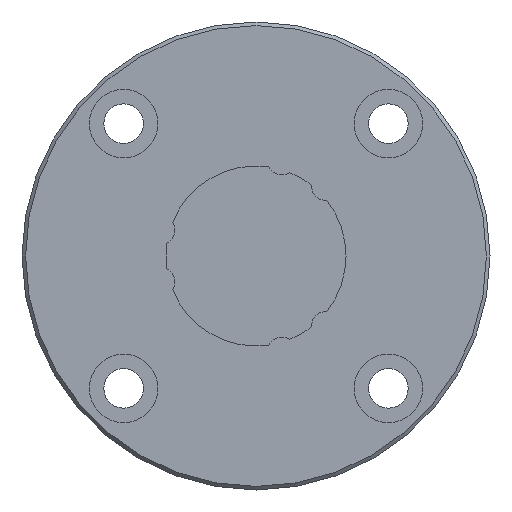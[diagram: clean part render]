
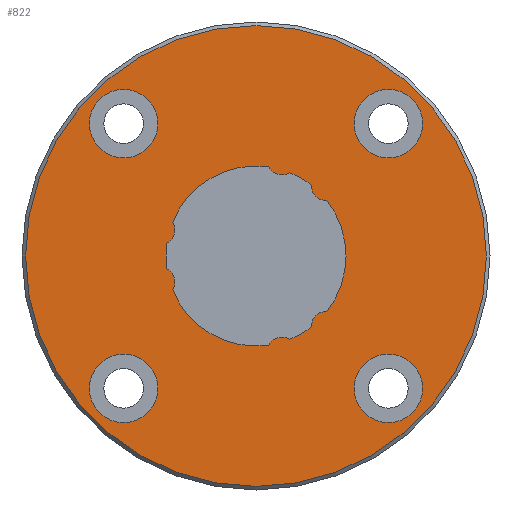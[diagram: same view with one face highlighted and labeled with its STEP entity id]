
A CAD part, left-side view. The second image highlights one B-rep face of the part: STEP entity #822.
In plain terms, the highlighted planar face has unit normal (-1, 0, 0).
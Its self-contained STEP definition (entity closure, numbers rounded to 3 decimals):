
#44=PLANE('',#927);
#175=ORIENTED_EDGE('',*,*,#351,.F.);
#176=ORIENTED_EDGE('',*,*,#352,.F.);
#177=ORIENTED_EDGE('',*,*,#353,.F.);
#178=ORIENTED_EDGE('',*,*,#354,.F.);
#179=ORIENTED_EDGE('',*,*,#355,.F.);
#180=ORIENTED_EDGE('',*,*,#356,.T.);
#181=ORIENTED_EDGE('',*,*,#357,.F.);
#182=ORIENTED_EDGE('',*,*,#358,.T.);
#183=ORIENTED_EDGE('',*,*,#359,.F.);
#184=ORIENTED_EDGE('',*,*,#360,.T.);
#185=ORIENTED_EDGE('',*,*,#361,.F.);
#186=ORIENTED_EDGE('',*,*,#362,.T.);
#187=ORIENTED_EDGE('',*,*,#363,.F.);
#188=ORIENTED_EDGE('',*,*,#364,.T.);
#189=ORIENTED_EDGE('',*,*,#365,.F.);
#190=ORIENTED_EDGE('',*,*,#366,.T.);
#191=ORIENTED_EDGE('',*,*,#367,.F.);
#351=EDGE_CURVE('',#445,#445,#523,.T.);
#352=EDGE_CURVE('',#446,#446,#524,.F.);
#353=EDGE_CURVE('',#447,#447,#525,.F.);
#354=EDGE_CURVE('',#448,#448,#526,.F.);
#355=EDGE_CURVE('',#449,#449,#527,.F.);
#356=EDGE_CURVE('',#450,#451,#528,.T.);
#357=EDGE_CURVE('',#452,#451,#529,.T.);
#358=EDGE_CURVE('',#452,#453,#530,.T.);
#359=EDGE_CURVE('',#454,#453,#531,.T.);
#360=EDGE_CURVE('',#454,#455,#532,.T.);
#361=EDGE_CURVE('',#456,#455,#533,.T.);
#362=EDGE_CURVE('',#456,#457,#534,.T.);
#363=EDGE_CURVE('',#458,#457,#535,.T.);
#364=EDGE_CURVE('',#458,#459,#536,.T.);
#365=EDGE_CURVE('',#460,#459,#537,.T.);
#366=EDGE_CURVE('',#460,#461,#538,.T.);
#367=EDGE_CURVE('',#450,#461,#539,.T.);
#445=VERTEX_POINT('',#1437);
#446=VERTEX_POINT('',#1439);
#447=VERTEX_POINT('',#1441);
#448=VERTEX_POINT('',#1443);
#449=VERTEX_POINT('',#1445);
#450=VERTEX_POINT('',#1447);
#451=VERTEX_POINT('',#1448);
#452=VERTEX_POINT('',#1450);
#453=VERTEX_POINT('',#1452);
#454=VERTEX_POINT('',#1454);
#455=VERTEX_POINT('',#1456);
#456=VERTEX_POINT('',#1458);
#457=VERTEX_POINT('',#1460);
#458=VERTEX_POINT('',#1462);
#459=VERTEX_POINT('',#1464);
#460=VERTEX_POINT('',#1466);
#461=VERTEX_POINT('',#1468);
#523=CIRCLE('',#928,32.);
#524=CIRCLE('',#929,4.75);
#525=CIRCLE('',#930,4.75);
#526=CIRCLE('',#931,4.75);
#527=CIRCLE('',#932,4.75);
#528=CIRCLE('',#933,12.5);
#529=CIRCLE('',#934,2.06);
#530=CIRCLE('',#935,12.5);
#531=CIRCLE('',#936,2.06);
#532=CIRCLE('',#937,12.5);
#533=CIRCLE('',#938,2.06);
#534=CIRCLE('',#939,12.5);
#535=CIRCLE('',#940,2.06);
#536=CIRCLE('',#941,12.5);
#537=CIRCLE('',#942,2.06);
#538=CIRCLE('',#943,12.5);
#539=CIRCLE('',#944,2.06);
#593=EDGE_LOOP('',(#175));
#594=EDGE_LOOP('',(#176));
#595=EDGE_LOOP('',(#177));
#596=EDGE_LOOP('',(#178));
#597=EDGE_LOOP('',(#179));
#598=EDGE_LOOP('',(#180,#181,#182,#183,#184,#185,#186,#187,#188,#189,#190,
#191));
#689=FACE_BOUND('',#593,.T.);
#690=FACE_BOUND('',#594,.T.);
#691=FACE_BOUND('',#595,.T.);
#692=FACE_BOUND('',#596,.T.);
#693=FACE_BOUND('',#597,.T.);
#694=FACE_BOUND('',#598,.T.);
#822=ADVANCED_FACE('',(#689,#690,#691,#692,#693,#694),#44,.F.);
#927=AXIS2_PLACEMENT_3D('',#1435,#1114,#1115);
#928=AXIS2_PLACEMENT_3D('',#1436,#1116,#1117);
#929=AXIS2_PLACEMENT_3D('',#1438,#1118,#1119);
#930=AXIS2_PLACEMENT_3D('',#1440,#1120,#1121);
#931=AXIS2_PLACEMENT_3D('',#1442,#1122,#1123);
#932=AXIS2_PLACEMENT_3D('',#1444,#1124,#1125);
#933=AXIS2_PLACEMENT_3D('',#1446,#1126,#1127);
#934=AXIS2_PLACEMENT_3D('',#1449,#1128,#1129);
#935=AXIS2_PLACEMENT_3D('',#1451,#1130,#1131);
#936=AXIS2_PLACEMENT_3D('',#1453,#1132,#1133);
#937=AXIS2_PLACEMENT_3D('',#1455,#1134,#1135);
#938=AXIS2_PLACEMENT_3D('',#1457,#1136,#1137);
#939=AXIS2_PLACEMENT_3D('',#1459,#1138,#1139);
#940=AXIS2_PLACEMENT_3D('',#1461,#1140,#1141);
#941=AXIS2_PLACEMENT_3D('',#1463,#1142,#1143);
#942=AXIS2_PLACEMENT_3D('',#1465,#1144,#1145);
#943=AXIS2_PLACEMENT_3D('',#1467,#1146,#1147);
#944=AXIS2_PLACEMENT_3D('',#1469,#1148,#1149);
#1114=DIRECTION('',(1.,0.,0.));
#1115=DIRECTION('',(0.,0.,-1.));
#1116=DIRECTION('',(1.,0.,0.));
#1117=DIRECTION('',(0.,0.,-1.));
#1118=DIRECTION('',(1.,0.,0.));
#1119=DIRECTION('',(0.,0.,-1.));
#1120=DIRECTION('',(1.,0.,0.));
#1121=DIRECTION('',(0.,0.,-1.));
#1122=DIRECTION('',(1.,0.,0.));
#1123=DIRECTION('',(0.,0.,-1.));
#1124=DIRECTION('',(1.,0.,0.));
#1125=DIRECTION('',(0.,0.,-1.));
#1126=DIRECTION('',(1.,0.,0.));
#1127=DIRECTION('',(0.,0.,-1.));
#1128=DIRECTION('',(1.,0.,0.));
#1129=DIRECTION('',(0.,0.,-1.));
#1130=DIRECTION('',(1.,0.,0.));
#1131=DIRECTION('',(0.,0.,-1.));
#1132=DIRECTION('',(1.,0.,0.));
#1133=DIRECTION('',(0.,0.,-1.));
#1134=DIRECTION('',(1.,0.,0.));
#1135=DIRECTION('',(0.,0.,-1.));
#1136=DIRECTION('',(1.,0.,0.));
#1137=DIRECTION('',(0.,0.,-1.));
#1138=DIRECTION('',(1.,0.,0.));
#1139=DIRECTION('',(0.,0.,-1.));
#1140=DIRECTION('',(1.,0.,0.));
#1141=DIRECTION('',(0.,0.,-1.));
#1142=DIRECTION('',(1.,0.,0.));
#1143=DIRECTION('',(0.,0.,-1.));
#1144=DIRECTION('',(1.,0.,0.));
#1145=DIRECTION('',(0.,0.,-1.));
#1146=DIRECTION('',(1.,0.,0.));
#1147=DIRECTION('',(0.,0.,-1.));
#1148=DIRECTION('',(1.,0.,0.));
#1149=DIRECTION('',(0.,0.,-1.));
#1435=CARTESIAN_POINT('',(0.,0.,0.));
#1436=CARTESIAN_POINT('',(0.,0.,0.));
#1437=CARTESIAN_POINT('',(0.,0.,-32.));
#1438=CARTESIAN_POINT('',(0.,-18.385,18.385));
#1439=CARTESIAN_POINT('',(0.,-18.385,13.635));
#1440=CARTESIAN_POINT('',(0.,-18.385,-18.385));
#1441=CARTESIAN_POINT('',(0.,-18.385,-23.135));
#1442=CARTESIAN_POINT('',(0.,18.385,-18.385));
#1443=CARTESIAN_POINT('',(0.,18.385,-23.135));
#1444=CARTESIAN_POINT('',(0.,18.385,18.385));
#1445=CARTESIAN_POINT('',(0.,18.385,13.635));
#1446=CARTESIAN_POINT('',(0.,0.,0.));
#1447=CARTESIAN_POINT('',(0.,12.378,-1.745));
#1448=CARTESIAN_POINT('',(0.,12.378,1.745));
#1449=CARTESIAN_POINT('',(0.,13.33,3.572));
#1450=CARTESIAN_POINT('',(0.,11.592,4.678));
#1451=CARTESIAN_POINT('',(0.,0.,0.));
#1452=CARTESIAN_POINT('',(0.,-1.745,12.378));
#1453=CARTESIAN_POINT('',(0.,-3.572,13.33));
#1454=CARTESIAN_POINT('',(0.,-4.678,11.592));
#1455=CARTESIAN_POINT('',(0.,0.,0.));
#1456=CARTESIAN_POINT('',(0.,-7.7,9.847));
#1457=CARTESIAN_POINT('',(0.,-9.758,9.758));
#1458=CARTESIAN_POINT('',(0.,-9.847,7.7));
#1459=CARTESIAN_POINT('',(0.,0.,0.));
#1460=CARTESIAN_POINT('',(0.,-9.847,-7.7));
#1461=CARTESIAN_POINT('',(0.,-9.758,-9.758));
#1462=CARTESIAN_POINT('',(0.,-7.7,-9.847));
#1463=CARTESIAN_POINT('',(0.,0.,0.));
#1464=CARTESIAN_POINT('',(0.,-4.678,-11.592));
#1465=CARTESIAN_POINT('',(0.,-3.572,-13.33));
#1466=CARTESIAN_POINT('',(0.,-1.745,-12.378));
#1467=CARTESIAN_POINT('',(0.,0.,0.));
#1468=CARTESIAN_POINT('',(0.,11.592,-4.678));
#1469=CARTESIAN_POINT('',(0.,13.33,-3.572));
